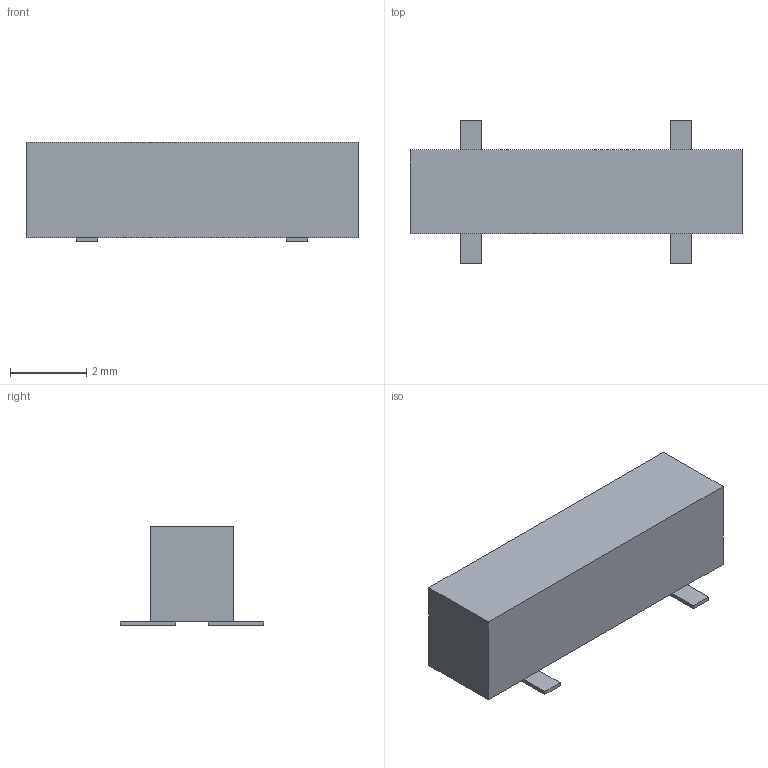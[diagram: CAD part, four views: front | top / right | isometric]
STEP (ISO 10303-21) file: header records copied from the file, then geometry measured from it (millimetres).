
FILE_DESCRIPTION(('FreeCAD Model'),'2;1');
FILE_NAME('/var/www/3D/0T/13693621.1.2.stp','2021-06-04T08:57:41',( 'Author'),(''),'Open CASCADE STEP processor 6.9','FreeCAD','Unknown' );
FILE_SCHEMA(('AUTOMOTIVE_DESIGN { 1 0 10303 214 1 1 1 1 }'));
Length unit declared in the file: millimetre
Products named in the file (3): ASSEMBLY; Body; Pins
Assembly tree (2 placements, depth 2):
  ASSEMBLY
    Body
    Pins
Bounding box: 8.7 x 3.76 x 2.6 mm (x, y, z)
Volume: 48.2 mm3; surface area: 100.9 mm2
Topology: 5 solids, 5 shells, 30 faces, 60 edges, 40 vertices
Faces by surface type: plane 30
Entity records: 1631 total; most frequent: CARTESIAN_POINT 253, DIRECTION 246, LINE 180, VECTOR 180, ORIENTED_EDGE 120, PCURVE 120, DEFINITIONAL_REPRESENTATION 120, EDGE_CURVE 60
